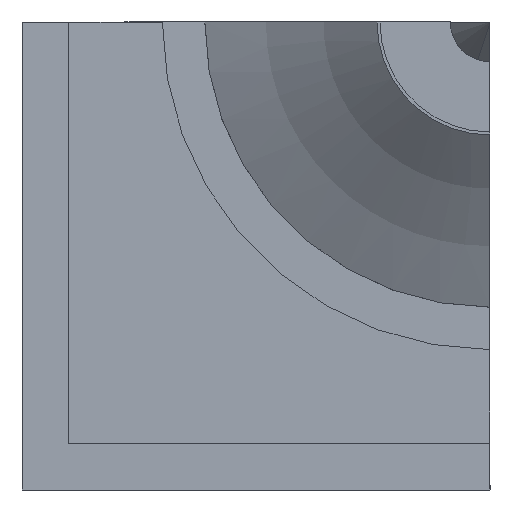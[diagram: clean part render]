
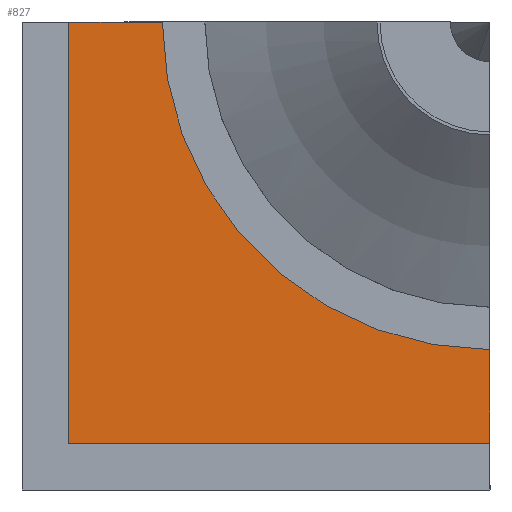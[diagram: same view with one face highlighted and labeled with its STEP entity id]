
A CAD part, front view. The second image highlights one B-rep face of the part: STEP entity #827.
In plain terms, the highlighted planar face has unit normal (0, -1, 0).
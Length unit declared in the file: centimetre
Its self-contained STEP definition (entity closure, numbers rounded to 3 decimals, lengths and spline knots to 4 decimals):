
#155 = EDGE_CURVE ( 'NONE', #921, #262, #1022, .T. ) ;
#232 = DIRECTION ( 'NONE',  ( 1., 0., 0. ) ) ;
#262 = VERTEX_POINT ( 'NONE', #1019 ) ;
#320 = EDGE_CURVE ( 'NONE', #1749, #262, #580, .T. ) ;
#393 = CARTESIAN_POINT ( 'NONE',  ( 0., -3., -14. ) ) ;
#425 = CARTESIAN_POINT ( 'NONE',  ( 0., -3., -14. ) ) ;
#521 = VECTOR ( 'NONE', #578, 100. ) ;
#578 = DIRECTION ( 'NONE',  ( 0., 0., -1. ) ) ;
#580 = LINE ( 'NONE', #425, #521 ) ;
#585 = PLANE ( 'NONE',  #1124 ) ;
#592 = ORIENTED_EDGE ( 'NONE', *, *, #320, .F. ) ;
#641 = VECTOR ( 'NONE', #1062, 100. ) ;
#649 = LINE ( 'NONE', #674, #1452 ) ;
#674 = CARTESIAN_POINT ( 'NONE',  ( -18., -3., 0. ) ) ;
#810 = VERTEX_POINT ( 'NONE', #1784 ) ;
#826 = ORIENTED_EDGE ( 'NONE', *, *, #1209, .T. ) ;
#827 = ADVANCED_FACE ( 'NONE', ( #1033 ), #585, .F. ) ;
#834 = DIRECTION ( 'NONE',  ( 0., 1., 0. ) ) ;
#865 = EDGE_CURVE ( 'NONE', #810, #878, #1053, .T. ) ;
#878 = VERTEX_POINT ( 'NONE', #1201 ) ;
#887 = CARTESIAN_POINT ( 'NONE',  ( 0., -3., 0. ) ) ;
#921 = VERTEX_POINT ( 'NONE', #1066 ) ;
#979 = CIRCLE ( 'NONE', #1431, 14. ) ;
#1019 = CARTESIAN_POINT ( 'NONE',  ( 0., -3., -18. ) ) ;
#1022 = LINE ( 'NONE', #1736, #1219 ) ;
#1033 = FACE_OUTER_BOUND ( 'NONE', #1199, .T. ) ;
#1046 = DIRECTION ( 'NONE',  ( 0., 0., 1. ) ) ;
#1053 = LINE ( 'NONE', #1959, #641 ) ;
#1062 = DIRECTION ( 'NONE',  ( -1., 0., 0. ) ) ;
#1066 = CARTESIAN_POINT ( 'NONE',  ( -18., -3., -18. ) ) ;
#1124 = AXIS2_PLACEMENT_3D ( 'NONE', #887, #1946, #1046 ) ;
#1199 = EDGE_LOOP ( 'NONE', ( #1629, #826, #1798, #592, #1702 ) ) ;
#1201 = CARTESIAN_POINT ( 'NONE',  ( -18., -3., 0. ) ) ;
#1209 = EDGE_CURVE ( 'NONE', #878, #921, #649, .T. ) ;
#1219 = VECTOR ( 'NONE', #232, 100. ) ;
#1431 = AXIS2_PLACEMENT_3D ( 'NONE', #1743, #834, #1893 ) ;
#1452 = VECTOR ( 'NONE', #1878, 100. ) ;
#1629 = ORIENTED_EDGE ( 'NONE', *, *, #865, .T. ) ;
#1702 = ORIENTED_EDGE ( 'NONE', *, *, #1733, .T. ) ;
#1733 = EDGE_CURVE ( 'NONE', #1749, #810, #979, .T. ) ;
#1736 = CARTESIAN_POINT ( 'NONE',  ( -18., -3., -18. ) ) ;
#1743 = CARTESIAN_POINT ( 'NONE',  ( 0., -3., 0. ) ) ;
#1749 = VERTEX_POINT ( 'NONE', #393 ) ;
#1784 = CARTESIAN_POINT ( 'NONE',  ( -14., -3., 0. ) ) ;
#1798 = ORIENTED_EDGE ( 'NONE', *, *, #155, .T. ) ;
#1878 = DIRECTION ( 'NONE',  ( 0., 0., -1. ) ) ;
#1893 = DIRECTION ( 'NONE',  ( 0., 0., 1. ) ) ;
#1946 = DIRECTION ( 'NONE',  ( 0., 1., 0. ) ) ;
#1959 = CARTESIAN_POINT ( 'NONE',  ( -14., -3., 0. ) ) ;
